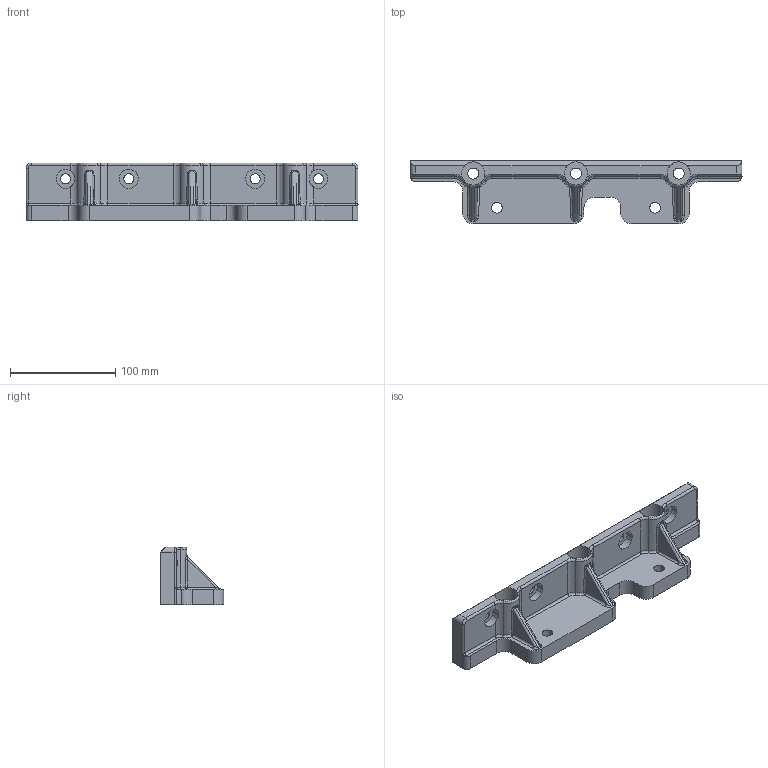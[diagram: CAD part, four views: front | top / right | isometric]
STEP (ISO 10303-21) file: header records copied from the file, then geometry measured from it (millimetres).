
FILE_DESCRIPTION(('STEP AP214'),'1');
FILE_NAME('EGT210_1702474_WINKEL_F_AUFNAHMEADAPTER.CATPart.stp','2015-09-14T13:13:21',('3D-Tool'),(' '),'Spatial InterOp 3D',' ',' ');
FILE_SCHEMA(('automotive_design'));
Length unit declared in the file: millimetre
Products named in the file (1): EGT210_1702474_WINKEL_F_AUFNAHMEADAPTER|PartBody|Kopie von Solid.1
Bounding box: 315 x 60 x 55 mm (x, y, z)
Volume: 390612.3 mm3; surface area: 76181.5 mm2
Topology: 1 solids, 1 shells, 208 faces, 550 edges, 340 vertices
Faces by surface type: cylinder 114, plane 39, torus 28, bspline 21, sphere 6
Entity records: 10157 total; most frequent: CARTESIAN_POINT 3354, DIRECTION 1088, ORIENTED_EDGE 1088, EDGE_CURVE 544, AXIS2_PLACEMENT_3D 454, VERTEX_POINT 340, CIRCLE 266, EDGE_LOOP 228
